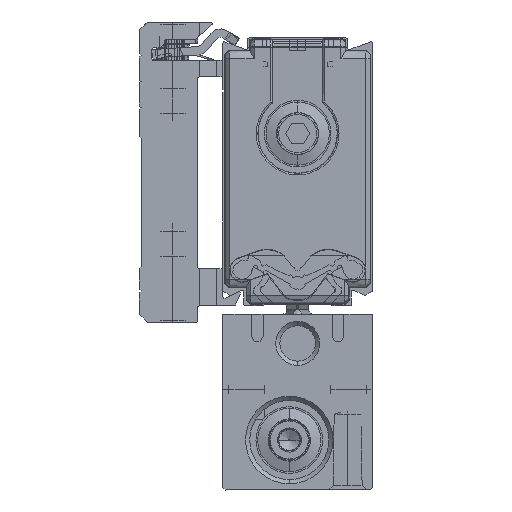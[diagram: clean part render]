
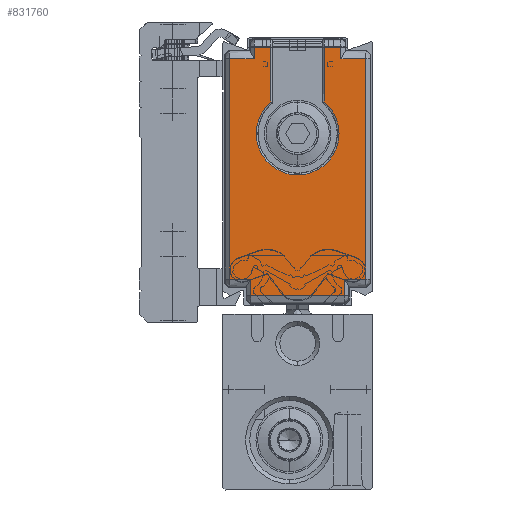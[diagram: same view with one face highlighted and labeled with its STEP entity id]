
A CAD part, left-side view. The second image highlights one B-rep face of the part: STEP entity #831760.
In plain terms, the highlighted planar face has unit normal (-1, 0, 0) as drawn and (0, 0, -1) by its records, which use the part's own axes.
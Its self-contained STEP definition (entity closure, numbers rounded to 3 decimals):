
#790920=CARTESIAN_POINT('',(24.688,30.224,-494.5));
#790930=VERTEX_POINT('',#790920);
#791980=CARTESIAN_POINT('',(31.365,35.75,-494.5));
#791990=DIRECTION('',(0.,-1.,0.));
#792000=VECTOR('',#791990,1.);
#792010=LINE('',#791980,#792000);
#792020=CARTESIAN_POINT('',(31.365,23.776,-494.5));
#792030=VERTEX_POINT('',#792020);
#792040=CARTESIAN_POINT('',(31.365,21.802,-494.5));
#792050=VERTEX_POINT('',#792040);
#792060=EDGE_CURVE('',#792030,#792050,#792010,.T.);
#799070=CARTESIAN_POINT('',(3.435,32.648,-494.5));
#799080=VERTEX_POINT('',#799070);
#799280=CARTESIAN_POINT('',(1.435,32.648,-494.5));
#799290=VERTEX_POINT('',#799280);
#799320=CARTESIAN_POINT('',(3.935,32.648,-494.5));
#799330=CARTESIAN_POINT('',(3.435,32.648,-494.5));
#799340=CARTESIAN_POINT('',(2.935,32.648,-494.5));
#799350=CARTESIAN_POINT('',(2.102,32.648,-494.5));
#799360=CARTESIAN_POINT('',(1.768,32.648,-494.5));
#799370=CARTESIAN_POINT('',(1.435,32.648,-494.5));
#799380=B_SPLINE_CURVE_WITH_KNOTS('',3,(#799320,#799330,#799340,#799350,
#799360,#799370),.UNSPECIFIED.,.F.,.F.,(4,2,4),(37.084,
38.584,39.584),.UNSPECIFIED.);
#799390=EDGE_CURVE('',#799080,#799290,#799380,.T.);
#800730=CARTESIAN_POINT('',(24.688,23.776,-494.5));
#800740=VERTEX_POINT('',#800730);
#802530=CARTESIAN_POINT('',(29.865,35.75,-494.5));
#802540=DIRECTION('',(0.,1.,0.));
#802550=VECTOR('',#802540,1.);
#802560=LINE('',#802530,#802550);
#802570=CARTESIAN_POINT('',(29.865,32.198,-494.5));
#802580=VERTEX_POINT('',#802570);
#802590=CARTESIAN_POINT('',(29.865,35.198,-494.5));
#802600=VERTEX_POINT('',#802590);
#802610=EDGE_CURVE('',#802580,#802600,#802560,.T.);
#804460=CARTESIAN_POINT('',(3.435,35.75,-494.5));
#804470=DIRECTION('',(0.,1.,0.));
#804480=VECTOR('',#804470,1.);
#804490=LINE('',#804460,#804480);
#804500=CARTESIAN_POINT('',(3.435,35.198,-494.5));
#804510=VERTEX_POINT('',#804500);
#804520=EDGE_CURVE('',#799080,#804510,#804490,.T.);
#804950=CARTESIAN_POINT('',(31.365,32.198,-494.5));
#804960=VERTEX_POINT('',#804950);
#804990=CARTESIAN_POINT('',(31.365,30.224,-494.5));
#805000=VERTEX_POINT('',#804990);
#805010=EDGE_CURVE('',#804960,#805000,#792010,.T.);
#805720=CARTESIAN_POINT('',(3.435,18.802,-494.5));
#805730=VERTEX_POINT('',#805720);
#806040=CARTESIAN_POINT('',(3.435,35.75,-494.5));
#806050=DIRECTION('',(0.,-1.,0.));
#806060=VECTOR('',#806050,1.);
#806070=LINE('',#806040,#806060);
#806080=CARTESIAN_POINT('',(3.435,21.352,-494.5));
#806090=VERTEX_POINT('',#806080);
#806100=EDGE_CURVE('',#806090,#805730,#806070,.T.);
#806950=CARTESIAN_POINT('',(1.435,21.352,-494.5));
#806960=VERTEX_POINT('',#806950);
#808430=CARTESIAN_POINT('',(3.935,21.352,-494.5));
#808440=CARTESIAN_POINT('',(3.435,21.352,-494.5));
#808450=CARTESIAN_POINT('',(2.935,21.352,-494.5));
#808460=CARTESIAN_POINT('',(2.102,21.352,-494.5));
#808470=CARTESIAN_POINT('',(1.768,21.352,-494.5));
#808480=CARTESIAN_POINT('',(1.435,21.352,-494.5));
#808490=B_SPLINE_CURVE_WITH_KNOTS('',3,(#808430,#808440,#808450,#808460,
#808470,#808480),.UNSPECIFIED.,.F.,.F.,(4,2,4),(37.084,
38.584,39.584),.UNSPECIFIED.);
#808500=EDGE_CURVE('',#806090,#806960,#808490,.T.);
#809680=CARTESIAN_POINT('',(1.435,35.75,-494.5));
#809690=DIRECTION('',(0.,1.,0.));
#809700=VECTOR('',#809690,1.);
#809710=LINE('',#809680,#809700);
#809720=EDGE_CURVE('',#806960,#799290,#809710,.T.);
#813290=CARTESIAN_POINT('',(0.15,30.224,-494.5));
#813300=DIRECTION('',(1.,0.,0.));
#813310=VECTOR('',#813300,1.);
#813320=LINE('',#813290,#813310);
#813330=EDGE_CURVE('',#790930,#805000,#813320,.T.);
#817070=CARTESIAN_POINT('',(29.865,21.802,-494.5));
#817080=VERTEX_POINT('',#817070);
#817130=CARTESIAN_POINT('',(29.365,21.802,-494.5));
#817140=CARTESIAN_POINT('',(29.782,21.802,-494.5));
#817150=CARTESIAN_POINT('',(30.198,21.802,-494.5));
#817160=CARTESIAN_POINT('',(30.865,21.802,-494.5));
#817170=CARTESIAN_POINT('',(31.115,21.802,-494.5));
#817180=CARTESIAN_POINT('',(31.365,21.802,-494.5));
#817190=B_SPLINE_CURVE_WITH_KNOTS('',3,(#817130,#817140,#817150,#817160,
#817170,#817180),.UNSPECIFIED.,.F.,.F.,(4,2,4),(37.587,
38.837,39.587),.UNSPECIFIED.);
#817200=EDGE_CURVE('',#817080,#792050,#817190,.T.);
#817530=CARTESIAN_POINT('',(29.365,32.198,-494.5));
#817540=CARTESIAN_POINT('',(29.782,32.198,-494.5));
#817550=CARTESIAN_POINT('',(30.198,32.198,-494.5));
#817560=CARTESIAN_POINT('',(30.865,32.198,-494.5));
#817570=CARTESIAN_POINT('',(31.115,32.198,-494.5));
#817580=CARTESIAN_POINT('',(31.365,32.198,-494.5));
#817590=B_SPLINE_CURVE_WITH_KNOTS('',3,(#817530,#817540,#817550,#817560,
#817570,#817580),.UNSPECIFIED.,.F.,.F.,(4,2,4),(37.587,
38.837,39.587),.UNSPECIFIED.);
#817600=EDGE_CURVE('',#802580,#804960,#817590,.T.);
#818740=CARTESIAN_POINT('',(29.865,18.802,-494.5));
#818750=VERTEX_POINT('',#818740);
#818780=CARTESIAN_POINT('',(3.435,18.802,-494.5));
#818790=CARTESIAN_POINT('',(7.84,18.802,-494.5));
#818800=CARTESIAN_POINT('',(12.245,18.802,-494.5));
#818810=CARTESIAN_POINT('',(21.055,18.802,-494.5));
#818820=CARTESIAN_POINT('',(25.46,18.802,-494.5));
#818830=CARTESIAN_POINT('',(29.865,18.802,-494.5));
#818840=B_SPLINE_CURVE_WITH_KNOTS('',3,(#818780,#818790,#818800,#818810,
#818820,#818830),.UNSPECIFIED.,.F.,.F.,(4,2,4),(24.334,
37.549,50.764),.UNSPECIFIED.);
#818850=EDGE_CURVE('',#805730,#818750,#818840,.T.);
#825250=CARTESIAN_POINT('',(29.865,35.75,-494.5));
#825260=DIRECTION('',(0.,-1.,0.));
#825270=VECTOR('',#825260,1.);
#825280=LINE('',#825250,#825270);
#825290=EDGE_CURVE('',#817080,#818750,#825280,.T.);
#826480=CARTESIAN_POINT('',(3.435,35.198,-494.5));
#826490=CARTESIAN_POINT('',(7.84,35.198,-494.5));
#826500=CARTESIAN_POINT('',(12.245,35.198,-494.5));
#826510=CARTESIAN_POINT('',(21.055,35.198,-494.5));
#826520=CARTESIAN_POINT('',(25.46,35.198,-494.5));
#826530=CARTESIAN_POINT('',(29.865,35.198,-494.5));
#826540=B_SPLINE_CURVE_WITH_KNOTS('',3,(#826480,#826490,#826500,#826510,
#826520,#826530),.UNSPECIFIED.,.F.,.F.,(4,2,4),(24.308,
37.523,50.738),.UNSPECIFIED.);
#826550=EDGE_CURVE('',#804510,#802600,#826540,.T.);
#831250=CARTESIAN_POINT('',(20.9,27.,-494.5));
#831260=DIRECTION('',(0.,0.,-1.));
#831270=DIRECTION('',(0.,1.,0.));
#831280=AXIS2_PLACEMENT_3D('',#831250,#831260,#831270);
#831290=CIRCLE('',#831280,4.974);
#831300=EDGE_CURVE('',#800740,#790930,#831290,.T.);
#831480=CARTESIAN_POINT('',(16.65,27.,-494.5));
#831490=DIRECTION('',(0.,0.,1.));
#831500=DIRECTION('',(0.,1.,0.));
#831510=AXIS2_PLACEMENT_3D('',#831480,#831490,#831500);
#831520=PLANE('',#831510);
#831530=ORIENTED_EDGE('',*,*,#831300,.F.);
#831540=ORIENTED_EDGE('',*,*,#813330,.F.);
#831550=ORIENTED_EDGE('',*,*,#805010,.T.);
#831560=ORIENTED_EDGE('',*,*,#817600,.T.);
#831570=ORIENTED_EDGE('',*,*,#802610,.F.);
#831580=ORIENTED_EDGE('',*,*,#826550,.T.);
#831590=ORIENTED_EDGE('',*,*,#804520,.T.);
#831600=ORIENTED_EDGE('',*,*,#799390,.F.);
#831610=ORIENTED_EDGE('',*,*,#809720,.T.);
#831620=ORIENTED_EDGE('',*,*,#808500,.T.);
#831630=ORIENTED_EDGE('',*,*,#806100,.F.);
#831640=ORIENTED_EDGE('',*,*,#818850,.F.);
#831650=ORIENTED_EDGE('',*,*,#825290,.T.);
#831660=ORIENTED_EDGE('',*,*,#817200,.F.);
#831670=ORIENTED_EDGE('',*,*,#792060,.T.);
#831680=CARTESIAN_POINT('',(0.15,23.776,-494.5));
#831690=DIRECTION('',(-1.,0.,0.));
#831700=VECTOR('',#831690,1.);
#831710=LINE('',#831680,#831700);
#831720=EDGE_CURVE('',#792030,#800740,#831710,.T.);
#831730=ORIENTED_EDGE('',*,*,#831720,.F.);
#831740=EDGE_LOOP('',(#831730,#831670,#831660,#831650,#831640,#831630,
#831620,#831610,#831600,#831590,#831580,#831570,#831560,#831550,#831540,
#831530));
#831750=FACE_OUTER_BOUND('',#831740,.T.);
#831760=ADVANCED_FACE('',(#831750),#831520,.F.);
